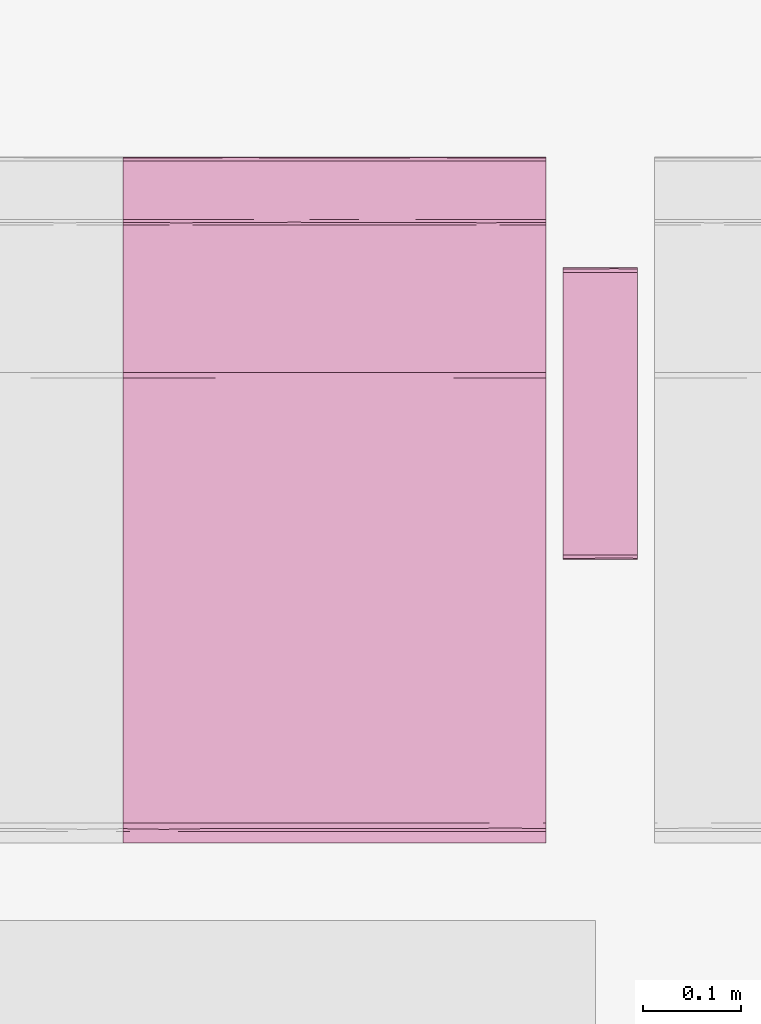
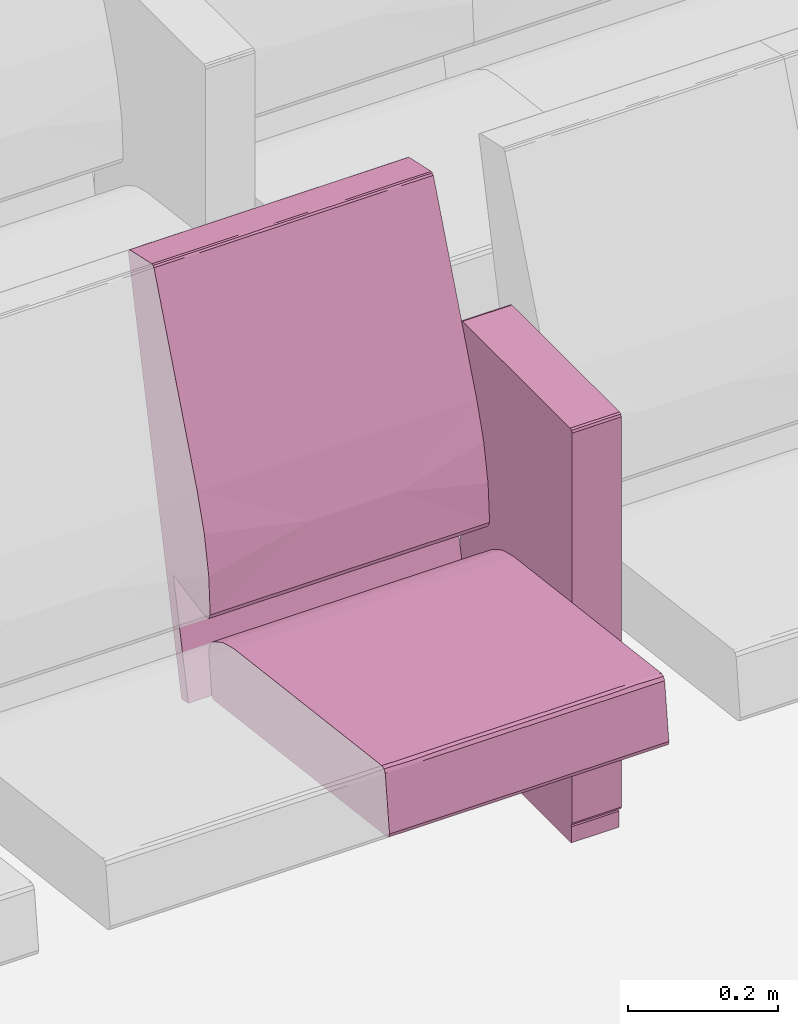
# One storey, part 89 of 155: 1 furnishing.
"""IFC2X3 building model written with IfcOpenShell, lengths in metres."""

from ifc_helpers import new_model, entity, si_unit, converted_unit, derived_unit, direction, frame, origin, place, context, subcontext, project, spatial, faceted_brep, source, transform, mapped, material, material_list, type_object, type_shapes, element, save


model = new_model("IFC2X3")

# Units and contexts
model_context = context("Model", 3, precision=1e-05, world=origin(), true_north=direction((6.12303176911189e-17, 1.0)))
body_context = subcontext(model_context, "Body", "Model", "MODEL_VIEW")
ifc_project = project(units=[si_unit("LENGTHUNIT", "METRE"), si_unit("AREAUNIT", "SQUARE_METRE"), si_unit("VOLUMEUNIT", "CUBIC_METRE"), converted_unit("PLANEANGLEUNIT", "DEGREE", entity("IfcRatioMeasure", 0.0174532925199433), si_unit("PLANEANGLEUNIT", "RADIAN"), dimensions=[0, 0, 0, 0, 0, 0, 0]), si_unit("MASSUNIT", "GRAM", prefix="KILO"), derived_unit("MASSDENSITYUNIT", [(si_unit("MASSUNIT", "GRAM", prefix="KILO"), 1), (si_unit("LENGTHUNIT", "METRE"), -3)]), si_unit("TIMEUNIT", "SECOND"), si_unit("FREQUENCYUNIT", "HERTZ"), si_unit("THERMODYNAMICTEMPERATUREUNIT", "DEGREE_CELSIUS"), derived_unit("THERMALTRANSMITTANCEUNIT", [(si_unit("MASSUNIT", "GRAM", prefix="KILO"), 1), (si_unit("THERMODYNAMICTEMPERATUREUNIT", "KELVIN"), -1), (si_unit("TIMEUNIT", "SECOND"), -3)]), derived_unit("VOLUMETRICFLOWRATEUNIT", [(si_unit("LENGTHUNIT", "METRE"), 3), (si_unit("TIMEUNIT", "SECOND"), -1)]), si_unit("ELECTRICCURRENTUNIT", "AMPERE"), si_unit("ELECTRICVOLTAGEUNIT", "VOLT"), si_unit("POWERUNIT", "WATT"), si_unit("FORCEUNIT", "NEWTON", prefix="KILO"), si_unit("ILLUMINANCEUNIT", "LUX"), si_unit("LUMINOUSFLUXUNIT", "LUMEN"), si_unit("LUMINOUSINTENSITYUNIT", "CANDELA"), derived_unit("USERDEFINED", [(si_unit("MASSUNIT", "GRAM", prefix="KILO"), -1), (si_unit("LENGTHUNIT", "METRE"), -2), (si_unit("TIMEUNIT", "SECOND"), 3), (si_unit("LUMINOUSFLUXUNIT", "LUMEN"), 1)]), derived_unit("LINEARVELOCITYUNIT", [(si_unit("LENGTHUNIT", "METRE"), 1), (si_unit("TIMEUNIT", "SECOND"), -1)]), si_unit("PRESSUREUNIT", "PASCAL"), derived_unit("USERDEFINED", [(si_unit("LENGTHUNIT", "METRE"), -2), (si_unit("MASSUNIT", "GRAM", prefix="KILO"), 1), (si_unit("TIMEUNIT", "SECOND"), -2)])], contexts=[model_context])

# Site, building, storey, space
site_placement = place(None, frame((26.9889013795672, -17.5624287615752, 0.0)))
site = spatial("IfcSite", under=ifc_project, at=site_placement, Name="Default", CompositionType="ELEMENT")
building_placement = place(site_placement, origin())
building = spatial("IfcBuilding", under=site, at=building_placement, Name="C. C. L. Monsenhor Antônio Sampaio", CompositionType="ELEMENT")
storey_placement = place(building_placement, frame((0.0, 0.0, 1.19999999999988)))
storey = spatial("IfcBuildingStorey", under=building, at=storey_placement, Name="Nível 1.2", CompositionType="ELEMENT", Elevation=1.19999999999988)
space_placement = place(storey_placement, origin())
space = spatial("IfcSpace", under=storey, at=space_placement, Name="94", CompositionType="ELEMENT", InteriorOrExteriorSpace="INTERNAL")

# Furnishing
ifc_material_1 = material(Name="V9 - V9 - Ecopelle_672_658")
ifc_material_2 = material(Name="V9 - V9 - RAL_9006_Grigio")
ifc_material_list_1 = material_list([ifc_material_1, ifc_material_2])
ifc_material_list_2 = material_list([ifc_material_1, ifc_material_2])
furniture_type = type_object("IfcFurnitureType", Name="Cadeira auditório", material=ifc_material_list_2)
shared_shape = source(origin(), body_context, "Body", "Brep", [
    faceted_brep([(0.405536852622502, -0.1075, 0.339809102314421), (0.410560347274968, -0.131924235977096, 0.34246450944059), (0.405536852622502, -0.156348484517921, 0.339809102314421), (0.41079981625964, -0.0179166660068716, 0.342749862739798), (0.410597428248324, -0.084060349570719, 0.342506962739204), (0.405536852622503, -0.0537499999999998, 0.339809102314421), (0.410248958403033, -0.173608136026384, 0.342130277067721), (0.405536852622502, -0.215, 0.339809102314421), (0.412515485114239, -0.143333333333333, 0.348529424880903), (0.412515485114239, -0.185674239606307, 0.348529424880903), (0.405536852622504, 0.1075, 0.33980910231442), (0.405536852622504, 0.156348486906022, 0.33980910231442), (0.410560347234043, 0.131924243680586, 0.342464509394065), (0.405536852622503, 0.0, 0.33980910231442), (0.411170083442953, 0.0341365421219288, 0.343251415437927), (0.41251548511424, 0.0, 0.348529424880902), (0.412515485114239, -0.0358333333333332, 0.348529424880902), (0.412515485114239, -0.0716666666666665, 0.348529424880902), (0.41251548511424, 0.143333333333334, 0.348529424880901), (0.41059742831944, 0.0840603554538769, 0.342506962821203), (0.405536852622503, 0.0537500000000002, 0.33980910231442), (0.410248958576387, 0.173608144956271, 0.342130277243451), (0.410799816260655, 0.215, 0.342749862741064), (0.412515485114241, 0.185674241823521, 0.348529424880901), (0.412515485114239, -0.215, 0.348529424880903), (0.410799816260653, -0.215, 0.342749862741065), (0.412515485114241, 0.215, 0.348529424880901), (0.41251548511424, 0.0716666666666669, 0.348529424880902), (0.405536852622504, 0.215, 0.33980910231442), (-0.0557900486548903, -0.215, 0.28268145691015), (-0.0557900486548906, -0.1881249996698, 0.282681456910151), (-0.0557900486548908, -0.161250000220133, 0.282681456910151), (-0.055790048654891, -0.134374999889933, 0.282681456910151), (-0.0557900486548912, -0.107499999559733, 0.282681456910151), (-0.0557900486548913, -0.0806250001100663, 0.282681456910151), (-0.0557900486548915, -0.0537499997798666, 0.282681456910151), (-0.0557900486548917, -0.0268749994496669, 0.282681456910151), (-0.0557900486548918, 0.0, 0.28268145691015), (-0.0557900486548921, 0.0268750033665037, 0.282681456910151), (-0.0557900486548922, 0.0537499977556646, 0.282681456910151), (-0.0557900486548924, 0.0806249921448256, 0.282681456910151), (-0.0557900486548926, 0.107499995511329, 0.282681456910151), (-0.0557900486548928, 0.138065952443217, 0.282681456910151), (-0.055790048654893, 0.168631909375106, 0.282681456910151), (-0.0557900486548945, 0.215, 0.28268145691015), (-0.0594787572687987, -0.0179017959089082, 0.283700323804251), (-0.0613666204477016, 0.0, 0.287029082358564), (-0.0594787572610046, 0.0152829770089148, 0.283700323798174), (-0.0594787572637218, -0.215, 0.283700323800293), (-0.0613666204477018, -0.215, 0.287029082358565), (-0.0613666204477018, -0.191815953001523, 0.287029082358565), (-0.0613666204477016, -0.030565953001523, 0.287029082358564), (-0.0593340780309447, -0.0671874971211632, 0.283591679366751), (-0.0593337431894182, 0.184174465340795, 0.283591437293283), (-0.0594787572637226, 0.215, 0.283700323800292), (-0.0593023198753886, 0.0940625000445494, 0.283568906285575), (-0.0613666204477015, 0.0611319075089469, 0.287029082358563), (-0.0613666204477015, 0.0916978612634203, 0.287029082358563), (-0.0613666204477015, 0.122263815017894, 0.287029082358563), (-0.0597338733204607, -0.147039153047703, 0.283913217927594), (-0.0613666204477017, -0.122263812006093, 0.287029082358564), (-0.059382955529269, -0.118123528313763, 0.28362747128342), (-0.0592501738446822, -0.180223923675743, 0.283532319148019), (-0.0613666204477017, -0.168631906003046, 0.287029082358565), (-0.0588783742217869, -0.0926899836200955, 0.283298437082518), (-0.0613666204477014, 0.168631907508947, 0.287029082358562), (-0.0613666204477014, 0.215, 0.287029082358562), (-0.0592576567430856, 0.123736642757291, 0.283537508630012), (-0.0594787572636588, 0.153348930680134, 0.283700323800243), (-0.0613666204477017, -0.0916978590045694, 0.287029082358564), (-0.0613666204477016, 0.0305659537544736, 0.287029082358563), (-0.059645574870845, 0.045848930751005, 0.283836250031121), (-0.0613666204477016, -0.0611319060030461, 0.287029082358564), (-0.0693403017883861, 0.143333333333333, 0.351419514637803), (-0.069340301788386, 0.215, 0.351419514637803), (-0.0693403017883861, -0.215, 0.351419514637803), (-0.0693403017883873, -0.143333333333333, 0.351419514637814), (-0.069340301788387, -0.0716666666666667, 0.351419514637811), (-0.0693403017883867, 0.0, 0.351419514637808), (-0.0693403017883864, 0.0716666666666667, 0.351419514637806), (-0.0653387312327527, -0.0126787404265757, 0.368680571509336), (-0.0645543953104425, -0.112272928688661, 0.369803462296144), (-0.0597085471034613, 0.0, 0.37476954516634), (-0.0655136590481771, 0.104400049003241, 0.368411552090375), (-0.0681665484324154, 0.0888707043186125, 0.36292533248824), (-0.0694879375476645, -0.0590582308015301, 0.356377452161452), (-0.0695056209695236, 0.125492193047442, 0.356093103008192), (-0.0597085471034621, 0.110316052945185, 0.374769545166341), (-0.0676206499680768, -0.215, 0.364371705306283), (-0.0672851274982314, -0.108066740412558, 0.365148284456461), (-0.0690003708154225, -0.132942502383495, 0.359900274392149), (-0.068624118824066, -0.215, 0.356813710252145), (-0.0686241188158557, 0.214999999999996, 0.356813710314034), (-0.0694502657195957, 0.0358333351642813, 0.356863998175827), (-0.0686999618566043, -0.035833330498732, 0.36116674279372), (-0.067620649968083, 0.214999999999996, 0.364371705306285), (-0.063664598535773, 0.214999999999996, 0.369570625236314), (-0.0597085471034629, 0.214999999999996, 0.374769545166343), (-0.0597085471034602, -0.110316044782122, 0.374769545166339), (-0.0636645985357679, -0.215, 0.36957062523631), (-0.0597085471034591, -0.215, 0.374769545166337), (-0.0018793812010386, -0.215, 0.398686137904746), (-0.0324117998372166, -0.0436847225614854, 0.39063968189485), (-0.0324117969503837, -0.215, 0.390639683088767), (-0.041847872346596, 0.0856576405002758, 0.386239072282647), (-0.00187938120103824, 0.102488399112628, 0.398686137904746), (-0.00187938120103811, 0.215, 0.398686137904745), (-0.0324117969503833, 0.215, 0.390639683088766), (-0.0219042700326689, 0.0570631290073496, 0.394412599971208), (-0.00187938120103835, 0.0, 0.398686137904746), (0.392202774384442, -0.215, 0.447486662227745), (0.392202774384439, -0.156349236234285, 0.447486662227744), (0.392202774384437, -0.107499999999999, 0.447486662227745), (0.392202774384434, -0.0537499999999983, 0.447486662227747), (0.392202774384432, 0.0, 0.447486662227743), (0.392202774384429, 0.0537500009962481, 0.44748666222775), (0.392202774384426, 0.107500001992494, 0.447486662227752), (0.392202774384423, 0.156349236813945, 0.447486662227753), (0.392202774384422, 0.215, 0.447486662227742), (0.397860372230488, 0.0827732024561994, 0.446039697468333), (0.401125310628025, 0.0976984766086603, 0.440530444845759), (0.398104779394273, 0.131924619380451, 0.445856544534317), (0.397373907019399, 0.173462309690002, 0.446363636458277), (0.401125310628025, 0.156349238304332, 0.440530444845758), (0.401125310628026, 0.215000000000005, 0.440530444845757), (0.398104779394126, 0.215000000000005, 0.445856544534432), (0.397860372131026, -0.0827731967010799, 0.446039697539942), (0.398104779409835, -0.131924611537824, 0.445856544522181), (0.398104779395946, -0.0268749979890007, 0.445856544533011), (0.398104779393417, 0.0237489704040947, 0.445856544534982), (0.401125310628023, -0.0488492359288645, 0.440530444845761), (0.401125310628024, 0.0488492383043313, 0.44053044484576), (0.398774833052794, -0.173462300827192, 0.445271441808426), (0.401125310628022, -0.0976984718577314, 0.440530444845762), (0.39810477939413, -0.215, 0.445856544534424), (0.401125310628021, -0.215, 0.440530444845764), (0.401125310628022, -0.156349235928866, 0.440530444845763), (0.401125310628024, 0.0, 0.44053044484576)], [[[0, 1, 2]], [[3, 4, 5]], [[2, 6, 7]], [[8, 9, 6]], [[10, 11, 12]], [[13, 3, 5]], [[3, 14, 15]], [[1, 4, 8]], [[6, 1, 8]], [[4, 3, 16]], [[16, 17, 8, 4]], [[12, 18, 19]], [[4, 1, 0]], [[20, 14, 13]], [[21, 22, 23]], [[15, 16, 3]], [[9, 24, 25]], [[26, 23, 22]], [[7, 6, 25]], [[12, 11, 21]], [[19, 14, 20]], [[4, 0, 5]], [[14, 27, 15]], [[13, 14, 3]], [[19, 18, 27]], [[19, 10, 12]], [[18, 21, 23]], [[10, 19, 20]], [[19, 27, 14]], [[2, 1, 6]], [[21, 11, 28]], [[25, 6, 9]], [[18, 12, 21]], [[22, 21, 28]], [[28, 11, 10, 20, 13, 5, 0, 2, 7, 29, 30, 31, 32, 33, 34, 35, 36, 37, 38, 39, 40, 41, 42, 43, 44]], [[45, 46, 47]], [[48, 49, 50]], [[51, 45, 52]], [[53, 54, 44]], [[55, 56, 57, 58]], [[59, 60, 61]], [[62, 63, 59]], [[34, 64, 52]], [[53, 65, 66]], [[41, 67, 42]], [[37, 36, 35, 45, 47, 38]], [[43, 42, 68]], [[29, 48, 30]], [[59, 31, 62]], [[62, 48, 50]], [[61, 69, 64]], [[65, 53, 68]], [[50, 63, 62]], [[62, 30, 48]], [[55, 58, 67]], [[32, 31, 59]], [[46, 70, 47]], [[65, 68, 58]], [[55, 40, 71]], [[70, 56, 71]], [[61, 33, 32]], [[59, 63, 60]], [[39, 38, 71, 40]], [[47, 71, 38]], [[51, 46, 45]], [[70, 71, 47]], [[71, 56, 55]], [[40, 55, 41]], [[67, 68, 42]], [[43, 68, 53]], [[43, 53, 44]], [[66, 54, 53]], [[68, 67, 58]], [[55, 67, 41]], [[72, 51, 52, 69]], [[62, 31, 30]], [[59, 61, 32]], [[35, 52, 45]], [[64, 34, 33]], [[34, 52, 35]], [[61, 60, 69]], [[52, 64, 69]], [[61, 64, 33]], [[73, 74, 66, 65, 58, 57, 56, 70, 46, 51, 72, 69, 60, 63, 50, 49, 75, 76, 77, 78, 79]], [[80, 81, 82]], [[83, 84, 80]], [[85, 78, 77, 76]], [[73, 79, 86]], [[80, 82, 83]], [[87, 83, 82]], [[88, 89, 90]], [[76, 75, 91]], [[92, 74, 73]], [[91, 90, 85]], [[80, 89, 81]], [[84, 93, 94]], [[84, 86, 93]], [[93, 78, 85]], [[73, 86, 92]], [[94, 93, 85]], [[95, 92, 84]], [[78, 93, 79]], [[80, 84, 94]], [[83, 96, 95]], [[94, 85, 90]], [[87, 97, 96]], [[98, 99, 100]], [[91, 85, 76]], [[94, 90, 89]], [[90, 91, 88]], [[89, 80, 94]], [[89, 99, 81]], [[89, 88, 99]], [[82, 81, 98]], [[81, 99, 98]], [[92, 86, 84]], [[93, 86, 79]], [[84, 83, 95]], [[96, 83, 87]], [[101, 102, 103]], [[104, 97, 87, 82]], [[105, 106, 107]], [[107, 108, 105]], [[109, 102, 101]], [[82, 102, 104]], [[102, 108, 104]], [[103, 102, 100]], [[97, 104, 107]], [[104, 108, 107]], [[102, 82, 98, 100]], [[105, 108, 109]], [[108, 102, 109]], [[109, 101, 110, 111, 112, 113, 114, 115, 116, 117, 118, 106, 105]], [[119, 120, 121]], [[122, 123, 124]], [[122, 125, 118]], [[126, 113, 112]], [[117, 121, 122]], [[121, 117, 116]], [[112, 111, 127]], [[113, 128, 129, 115, 114]], [[126, 130, 128]], [[129, 131, 119]], [[111, 132, 127]], [[132, 111, 110]], [[133, 126, 127]], [[123, 122, 121]], [[132, 134, 135]], [[127, 132, 136]], [[123, 121, 120]], [[127, 136, 133]], [[129, 128, 130, 137, 131]], [[112, 127, 126]], [[126, 133, 130]], [[119, 121, 116]], [[113, 126, 128]], [[119, 115, 129]], [[119, 116, 115]], [[120, 119, 131]], [[117, 122, 118]], [[124, 125, 122]], [[136, 132, 135]], [[110, 134, 132]], [[137, 130, 133, 136, 135, 24, 9, 8, 17, 16, 15, 27, 18, 23, 26, 124, 123, 120, 131]], [[44, 54, 66, 74, 92, 95, 96, 97, 107, 106, 118, 125, 124, 26, 22, 28]], [[75, 49, 48, 29, 7, 25, 24, 135, 134, 110, 101, 103, 100, 99, 88, 91]]]),
    faceted_brep([(0.119812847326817, 0.27, 0.674900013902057), (0.12334838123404, 0.259944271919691, 0.6734355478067), (0.123144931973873, 0.283972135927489, 0.673627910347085), (0.124812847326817, 0.27, 0.669900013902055), (0.119812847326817, 0.232, 0.674900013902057), (0.12334838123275, 0.232, 0.673435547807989), (0.124812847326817, 0.308, 0.669900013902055), (0.119812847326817, 0.308, 0.674900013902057), (0.124812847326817, 0.249888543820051, 0.669900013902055), (0.124812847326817, 0.232, 0.669900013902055), (0.12334838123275, 0.308, 0.673435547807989), (0.124812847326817, 0.232, 0.0349999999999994), (0.124812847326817, 0.27, 0.035), (0.124812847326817, 0.308, 0.035), (0.12334838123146, 0.25994427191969, 0.0314644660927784), (0.123540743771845, 0.283972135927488, 0.0316679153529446), (0.119812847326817, 0.27, 0.0300000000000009), (0.12334838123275, 0.232, 0.0314644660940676), (0.119812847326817, 0.308, 0.0300000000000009), (0.119812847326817, 0.249888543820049, 0.030000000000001), (0.119812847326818, 0.232, 0.030000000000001), (0.123348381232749, 0.308, 0.0314644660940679), (-0.167179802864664, 0.27, 0.0300000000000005), (-0.167179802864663, 0.308, 0.0300000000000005), (-0.167179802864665, 0.232, 0.0300000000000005), (-0.170715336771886, 0.25994427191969, 0.0314644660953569), (-0.17051188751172, 0.283972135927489, 0.0312721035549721), (-0.172179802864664, 0.27, 0.0350000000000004), (-0.170715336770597, 0.232, 0.0314644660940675), (-0.172179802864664, 0.308, 0.0350000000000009), (-0.172179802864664, 0.24988854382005, 0.0350000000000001), (-0.172179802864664, 0.232, 0.0349999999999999), (-0.170715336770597, 0.308, 0.0314644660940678), (-0.172179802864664, 0.308, 0.669900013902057), (-0.172179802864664, 0.232, 0.669900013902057), (-0.172179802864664, 0.27, 0.669900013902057), (-0.170715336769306, 0.259944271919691, 0.673435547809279), (-0.170907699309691, 0.283972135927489, 0.673232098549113), (-0.167179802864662, 0.27, 0.674900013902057), (-0.170715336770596, 0.232, 0.67343554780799), (-0.167179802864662, 0.308, 0.674900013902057), (-0.167179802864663, 0.249888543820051, 0.674900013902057), (-0.167179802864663, 0.232, 0.674900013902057), (-0.170715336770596, 0.308, 0.67343554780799)], [[[0, 1, 2]], [[3, 2, 1]], [[0, 4, 5, 1]], [[2, 3, 6]], [[0, 2, 7]], [[8, 3, 1, 5, 9]], [[7, 2, 10]], [[6, 10, 2]], [[9, 11, 12, 13, 6, 3, 8]], [[12, 14, 15]], [[16, 15, 14]], [[12, 11, 17, 14]], [[15, 16, 18]], [[12, 15, 13]], [[19, 16, 14, 17, 20]], [[13, 15, 21]], [[18, 21, 15]], [[22, 23, 18, 16, 19, 20, 24]], [[22, 25, 26]], [[27, 26, 25]], [[22, 24, 28, 25]], [[26, 27, 29]], [[22, 26, 23]], [[30, 27, 25, 28, 31]], [[23, 26, 32]], [[29, 32, 26]], [[33, 29, 27, 30, 31, 34, 35]], [[35, 36, 37]], [[38, 37, 36]], [[35, 34, 39, 36]], [[37, 38, 40]], [[35, 37, 33]], [[41, 38, 36, 39, 42]], [[33, 37, 43]], [[40, 43, 37]], [[0, 7, 40, 38, 41, 42, 4]], [[42, 39, 34, 31, 28, 24, 20, 17, 11, 9, 5, 4]], [[23, 32, 29, 33, 43, 40, 7, 10, 6, 13, 21, 18]]]),
    faceted_brep([(-0.0655618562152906, -0.215, 0.415143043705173), (-0.0744051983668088, -0.0524423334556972, 0.506888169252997), (-0.0695672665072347, -0.215, 0.476508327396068), (-0.0655618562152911, 0.0, 0.415143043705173), (-0.0744051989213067, 0.0780075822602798, 0.506888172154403), (-0.0655618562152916, 0.1075, 0.415143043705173), (-0.0655618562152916, 0.215, 0.415143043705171), (-0.0655618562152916, -0.1075, 0.415143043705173), (-0.0695672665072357, 0.215, 0.476508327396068), (-0.0811110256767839, 0.215, 0.536911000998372), (-0.0811110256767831, -0.215, 0.536911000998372), (-0.100016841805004, 0.0, 0.595428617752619), (-0.100016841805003, -0.215, 0.595428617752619), (-0.100016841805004, 0.215, 0.595428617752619), (-0.0792851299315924, -0.0716666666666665, 0.404772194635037), (-0.0792851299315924, 0.0, 0.404772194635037), (-0.0698317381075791, -0.0358333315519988, 0.406528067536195), (-0.0698317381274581, 0.215, 0.406528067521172), (-0.0792851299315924, 0.143333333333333, 0.404772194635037), (-0.0792851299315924, 0.215, 0.404772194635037), (-0.0698317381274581, -0.215, 0.406528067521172), (-0.0792851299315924, -0.215, 0.404772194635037), (-0.0792851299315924, -0.143333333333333, 0.404772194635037), (-0.0694171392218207, -0.140338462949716, 0.406857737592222), (-0.0708115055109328, 0.0356393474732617, 0.405868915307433), (-0.0703502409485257, 0.107500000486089, 0.406159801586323), (-0.0792851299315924, 0.0716666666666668, 0.404772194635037), (-0.163837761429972, 0.215, 0.420611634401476), (-0.163837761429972, -0.215, 0.420611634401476), (-0.123612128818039, -0.215, 0.235917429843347), (-0.123612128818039, 0.215, 0.235917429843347), (-0.142059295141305, -0.215, 0.231899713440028), (-0.142059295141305, 0.215, 0.231899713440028), (-0.235388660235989, -0.215, 0.652619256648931), (-0.235388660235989, 0.215, 0.652619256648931), (-0.28428001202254, 0.0, 0.873004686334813), (-0.284280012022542, 0.0268749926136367, 0.873004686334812), (-0.284280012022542, 0.0537499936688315, 0.873004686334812), (-0.284280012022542, 0.0806249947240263, 0.873004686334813), (-0.284280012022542, 0.107499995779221, 0.873004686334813), (-0.284280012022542, 0.134374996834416, 0.873004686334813), (-0.284280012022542, 0.161249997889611, 0.873004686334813), (-0.284280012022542, 0.191295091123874, 0.873004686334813), (-0.28428001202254, 0.215, 0.873004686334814), (-0.284280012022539, -0.215, 0.873004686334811), (-0.28428001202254, -0.191295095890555, 0.873004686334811), (-0.284280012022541, -0.161249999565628, 0.873004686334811), (-0.284280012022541, -0.134374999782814, 0.873004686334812), (-0.284280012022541, -0.1075, 0.873004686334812), (-0.284280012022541, -0.0806250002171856, 0.873004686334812), (-0.284280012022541, -0.0537500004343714, 0.873004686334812), (-0.284280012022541, -0.0268749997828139, 0.873004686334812), (-0.283504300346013, -0.0569644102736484, 0.877068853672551), (-0.283746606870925, -0.0872244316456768, 0.876674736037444), (-0.283641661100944, 0.12093750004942, 0.876855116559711), (-0.283567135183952, 0.15546176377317, 0.876973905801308), (-0.28330409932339, -0.185293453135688, 0.877344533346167), (-0.283567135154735, -0.155461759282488, 0.876973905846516), (-0.280514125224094, 0.0, 0.879190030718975), (-0.280514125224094, 0.0358333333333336, 0.879190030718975), (-0.283641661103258, 0.0136463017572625, 0.876855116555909), (-0.283641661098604, -0.0179166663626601, 0.876855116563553), (-0.280514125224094, -0.0358333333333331, 0.879190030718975), (-0.280514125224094, 0.1075, 0.879190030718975), (-0.280514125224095, 0.143333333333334, 0.879190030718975), (-0.283746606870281, 0.0872244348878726, 0.876674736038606), (-0.280514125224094, 0.071666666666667, 0.879190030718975), (-0.280514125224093, -0.1075, 0.879190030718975), (-0.280514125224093, -0.0716666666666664, 0.879190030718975), (-0.280514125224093, -0.143333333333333, 0.879190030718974), (-0.283641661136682, -0.120937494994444, 0.876855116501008), (-0.283641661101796, -0.215, 0.876855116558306), (-0.283641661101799, 0.215, 0.876855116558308), (-0.280514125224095, 0.167590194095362, 0.879190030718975), (-0.283304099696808, 0.18529345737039, 0.877344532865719), (-0.280514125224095, 0.215, 0.879190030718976), (-0.280514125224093, -0.167590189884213, 0.879190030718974), (-0.280514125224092, -0.215, 0.879190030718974), (-0.283504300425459, 0.0569644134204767, 0.8770688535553), (-0.221112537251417, -0.215, 0.892176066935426), (-0.221112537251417, -0.19181594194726, 0.892176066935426), (-0.221112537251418, -0.16124999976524, 0.892176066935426), (-0.221112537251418, -0.13437499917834, 0.892176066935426), (-0.221112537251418, -0.10749999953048, 0.892176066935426), (-0.221112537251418, -0.08062499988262, 0.892176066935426), (-0.221112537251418, -0.0537500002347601, 0.892176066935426), (-0.221112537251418, -0.0268750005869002, 0.892176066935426), (-0.221112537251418, 0.0, 0.892176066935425), (-0.221112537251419, 0.0268750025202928, 0.892176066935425), (-0.221112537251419, 0.053749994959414, 0.892176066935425), (-0.221112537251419, 0.0806249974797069, 0.892176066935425), (-0.221112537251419, 0.1075, 0.892176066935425), (-0.221112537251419, 0.134375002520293, 0.892176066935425), (-0.221112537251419, 0.161250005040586, 0.892176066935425), (-0.221112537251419, 0.191815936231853, 0.892176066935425), (-0.221112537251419, 0.215, 0.892176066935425), (-0.217722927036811, -0.0162353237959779, 0.891719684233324), (-0.215419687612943, -0.0358333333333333, 0.889191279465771), (-0.215419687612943, 0.0, 0.889191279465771), (-0.217722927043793, 0.0134375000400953, 0.891719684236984), (-0.217722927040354, 0.120937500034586, 0.89171968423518), (-0.217722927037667, 0.0912646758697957, 0.891719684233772), (-0.215419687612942, 0.0716666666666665, 0.88919127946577), (-0.215419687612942, 0.1075, 0.88919127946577), (-0.215419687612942, 0.143333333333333, 0.88919127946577), (-0.217722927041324, 0.215, 0.891719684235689), (-0.217722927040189, 0.182482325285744, 0.891719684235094), (-0.215419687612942, 0.168631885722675, 0.889191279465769), (-0.215419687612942, 0.191815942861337, 0.889191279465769), (-0.215419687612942, 0.215, 0.889191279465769), (-0.217722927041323, -0.215, 0.89171968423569), (-0.215419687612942, -0.215, 0.889191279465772), (-0.215419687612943, -0.191815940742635, 0.889191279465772), (-0.217722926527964, -0.190103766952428, 0.891719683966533), (-0.2179983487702, 0.039082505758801, 0.891853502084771), (-0.217816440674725, 0.0647800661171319, 0.891767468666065), (-0.217558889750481, 0.155982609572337, 0.891629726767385), (-0.217722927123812, -0.120937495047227, 0.891719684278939), (-0.217558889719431, -0.15598260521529, 0.891629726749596), (-0.215419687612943, -0.143333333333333, 0.889191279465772), (-0.215419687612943, -0.16863188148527, 0.889191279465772), (-0.215419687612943, -0.0716666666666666, 0.889191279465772), (-0.217816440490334, -0.0647800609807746, 0.891767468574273), (-0.217722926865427, -0.0912646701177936, 0.891719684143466), (-0.215419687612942, 0.0358333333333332, 0.889191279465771), (-0.215419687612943, -0.1075, 0.889191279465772), (-0.218257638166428, -0.0404491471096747, 0.891961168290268)], [[[0, 1, 2]], [[3, 4, 1]], [[4, 3, 5, 6]], [[1, 0, 7, 3]], [[8, 4, 6]], [[9, 4, 8]], [[1, 10, 2]], [[1, 11, 12]], [[9, 13, 4]], [[13, 11, 4]], [[10, 1, 12]], [[11, 1, 4]], [[14, 15, 16]], [[17, 18, 19]], [[20, 21, 22]], [[20, 23, 0]], [[3, 7, 16]], [[15, 24, 16]], [[24, 25, 5]], [[22, 23, 20]], [[7, 23, 16]], [[6, 5, 17]], [[16, 24, 3]], [[16, 23, 14]], [[23, 22, 14]], [[18, 25, 26]], [[18, 17, 25]], [[26, 24, 15]], [[7, 0, 23]], [[5, 25, 17]], [[25, 24, 26]], [[3, 24, 5]], [[27, 19, 18, 26, 15, 14, 22, 21, 28]], [[27, 28, 29, 30]], [[31, 32, 30, 29]], [[33, 34, 32, 31]], [[35, 36, 37, 38, 39, 40, 41, 42, 43, 34, 33, 44, 45, 46, 47, 48, 49, 50, 51]], [[52, 49, 53]], [[54, 55, 40]], [[46, 56, 57]], [[58, 59, 60, 61, 62]], [[54, 63, 64]], [[65, 66, 63]], [[67, 68, 53]], [[57, 69, 70]], [[45, 56, 46]], [[39, 54, 40]], [[45, 44, 71]], [[72, 43, 42]], [[35, 51, 61, 60, 36]], [[55, 73, 74]], [[39, 65, 54]], [[74, 73, 75]], [[67, 53, 70]], [[74, 42, 41]], [[64, 73, 55]], [[56, 76, 57]], [[74, 72, 42]], [[76, 56, 77]], [[56, 71, 77]], [[57, 76, 69]], [[48, 70, 53]], [[70, 48, 47]], [[60, 78, 36]], [[63, 54, 65]], [[71, 56, 45]], [[41, 55, 74]], [[72, 74, 75]], [[57, 70, 47]], [[47, 46, 57]], [[69, 67, 70]], [[50, 49, 52, 51]], [[52, 62, 61]], [[61, 51, 52]], [[55, 41, 40]], [[55, 54, 64]], [[66, 65, 78]], [[65, 38, 78]], [[52, 53, 68]], [[37, 36, 78, 38]], [[78, 59, 66]], [[59, 78, 60]], [[49, 48, 53]], [[65, 39, 38]], [[52, 68, 62]], [[79, 80, 81, 82, 83, 84, 85, 86, 87, 88, 89, 90, 91, 92, 93, 94, 95, 75, 73, 64, 63, 66, 59, 58, 62, 68, 67, 69, 76, 77]], [[96, 97, 98, 99]], [[100, 101, 102, 103, 104]], [[105, 106, 107, 108, 109]], [[110, 111, 112]], [[80, 110, 113]], [[89, 114, 115]], [[92, 116, 93]], [[94, 93, 106, 105, 95]], [[80, 79, 110]], [[92, 91, 90, 101, 100]], [[99, 88, 87, 86, 96]], [[104, 107, 116]], [[117, 83, 82]], [[117, 118, 119]], [[112, 120, 113]], [[118, 120, 119]], [[118, 81, 113]], [[116, 107, 106]], [[101, 90, 115]], [[121, 122, 123]], [[104, 116, 100]], [[110, 112, 113]], [[114, 99, 124]], [[92, 100, 116]], [[117, 125, 123]], [[82, 81, 118]], [[118, 117, 82]], [[83, 117, 123]], [[125, 117, 119]], [[102, 101, 115]], [[84, 83, 123]], [[123, 125, 121]], [[85, 84, 122]], [[89, 115, 90]], [[96, 86, 126]], [[124, 102, 115]], [[88, 99, 114]], [[99, 98, 124]], [[122, 121, 97]], [[126, 122, 97]], [[88, 114, 89]], [[115, 114, 124]], [[123, 122, 84]], [[126, 85, 122]], [[85, 126, 86]], [[96, 126, 97]], [[116, 106, 93]], [[80, 113, 81]], [[118, 113, 120]], [[12, 11, 13, 109, 108, 107, 104, 103, 102, 124, 98, 97, 121, 125, 119, 120, 112, 111]], [[30, 32, 34, 43, 72, 75, 95, 105, 109, 13, 9, 8, 6, 17, 19, 27]], [[77, 71, 44, 33, 31, 29, 28, 21, 20, 0, 2, 10, 12, 111, 110, 79]]]),
    faceted_brep([(0.120312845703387, 0.2335, 0.0), (0.120312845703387, 0.3065, 0.0), (0.120312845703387, 0.3065, 0.0260000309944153), (0.120312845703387, 0.27, 0.0260000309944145), (0.120312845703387, 0.249500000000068, 0.0260000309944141), (0.120312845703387, 0.2335, 0.0260000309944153), (-0.167687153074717, 0.2335, 0.0), (-0.167687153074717, 0.3065, 0.0), (-0.167687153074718, 0.3065, 0.0260000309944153), (-0.167687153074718, 0.2335, 0.0260000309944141), (-0.167687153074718, 0.27, 0.0260000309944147), (-0.163702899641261, 0.233500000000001, 0.0300000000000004), (-0.166521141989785, 0.257382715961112, 0.0288228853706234), (-0.166521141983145, 0.233500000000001, 0.0288228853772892), (-0.166521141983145, 0.3065, 0.0288228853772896), (-0.16652114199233, 0.279986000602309, 0.0288228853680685), (-0.163702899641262, 0.3065, 0.0300000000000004), (-0.163702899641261, 0.27, 0.0300000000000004), (0.116297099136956, 0.2335, 0.0300000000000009), (0.116297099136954, 0.270000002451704, 0.0300000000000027), (0.116297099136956, 0.3065, 0.0300000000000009), (0.119033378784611, 0.283124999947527, 0.0289323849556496), (0.119135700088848, 0.259750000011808, 0.0288340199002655), (0.1191357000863, 0.2335, 0.0288340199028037), (0.119135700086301, 0.3065, 0.0288340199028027)], [[[0, 1, 2, 3, 4, 5]], [[6, 7, 1, 0]], [[8, 7, 6, 9, 10]], [[11, 12, 13]], [[14, 15, 16]], [[17, 16, 15, 12, 11]], [[13, 12, 10, 9]], [[8, 15, 14]], [[12, 15, 8, 10]], [[16, 17, 11, 18, 19, 20]], [[3, 2, 21]], [[22, 19, 18, 23]], [[22, 23, 5, 4, 3]], [[20, 21, 24]], [[22, 3, 21]], [[19, 21, 20]], [[2, 24, 21]], [[19, 22, 21]], [[20, 24, 2, 1, 7, 8, 14, 16]], [[18, 11, 13, 9, 6, 0, 5, 23]]]),
])
type_shapes(furniture_type, [shared_shape])
furnishing_placement = place(space_placement, frame((-7.63594929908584, -16.2852332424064, 0.0), z_axis=(0.0, 0.0, 1.0), x_axis=(0.0, -1.0, 0.0)))
element("IfcFurnishingElement", 1, at=furnishing_placement, inside=space, type_object=furniture_type, material=ifc_material_list_1, Name="cadeira auditório pcd:Cadeira auditório", ObjectType="Cadeira auditório", context=body_context, shape_type="MappedRepresentation", body=[
    mapped(shared_shape, transform((0.0, 0.0, 0.0), scale=1.0)),
])

save(model, "model.ifc")
